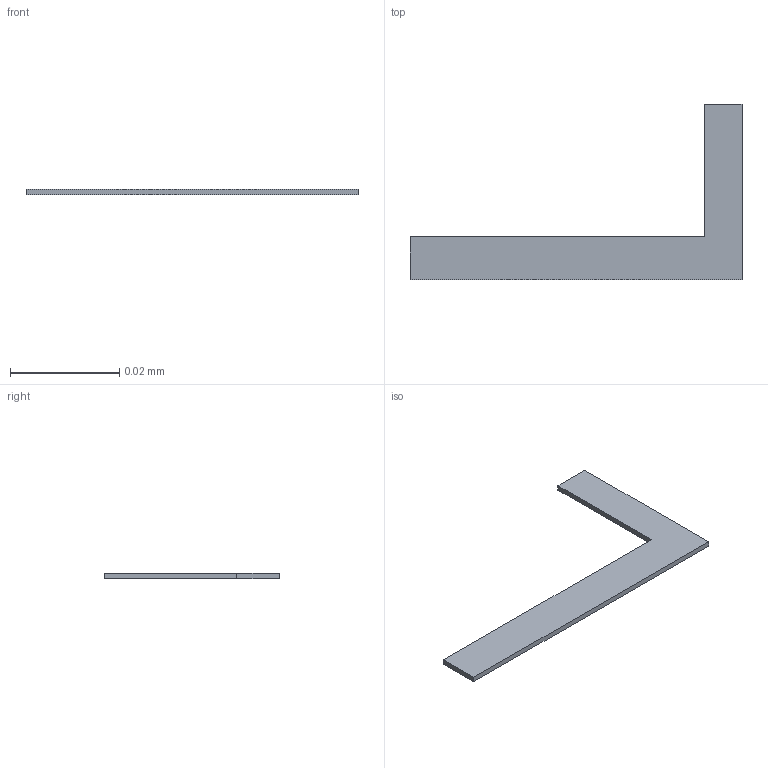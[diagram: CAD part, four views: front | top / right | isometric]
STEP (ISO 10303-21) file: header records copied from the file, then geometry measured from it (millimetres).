
FILE_DESCRIPTION(/* description */ ('STEP AP242 Edition 2','CAx-IF Rec.Pracs.---Representation and Presentation of Product Manufacturing Information (PMI)---4.0---2014-10-13','CAx-IF Rec.Pracs.---3D Tessellated Geometry---0.4---2014-09-14','2;1','CAx-IF Rec.Pracs.---User Defined Attributes---1.5---2016-08-15'),/* implementation_level */ '2;1');
FILE_NAME(/* name */ 'Assembly 1 - SOT-23-3_L2.9-W1.3-P0.95-LS2.4-BR~SOT-23-3P_L2.9-W1.3-H1.0-LS2.4-P0.95~nxQB (2)',/* time_stamp */ '2026-04-02T09:55:23Z',/* author */ (''),/* organization */ (''),/* preprocessor_version */ 'ST-DEVELOPER v20',/* originating_system */ 'ONSHAPE BY PTC INC, 1.212',/* authorisation */ ' ');
FILE_SCHEMA (('AP242_MANAGED_MODEL_BASED_3D_ENGINEERING_MIM_LF { 1 0 10303 442 3 1 4 }'));
Length unit declared in the file: metre
Products named in the file (1): SOT-23-3_L2.9-W1.3-P0.95-LS2.4-BR~SOT-23-3P_L2.9-W1.3-H1.0-LS2.4-P0.9
5~nxQB
Bounding box: 0.06 x 0.03 x 0 mm (x, y, z)
Volume: 0 mm3; surface area: 0 mm2
Topology: 1 solids, 1 shells, 8 faces, 18 edges, 12 vertices
Faces by surface type: plane 8
Entity records: 301 total; most frequent: CARTESIAN_POINT 39, ORIENTED_EDGE 36, DIRECTION 36, EDGE_CURVE 18, LINE 18, VECTOR 18, VERTEX_POINT 12, PRESENTATION_STYLE_ASSIGNMENT 9
